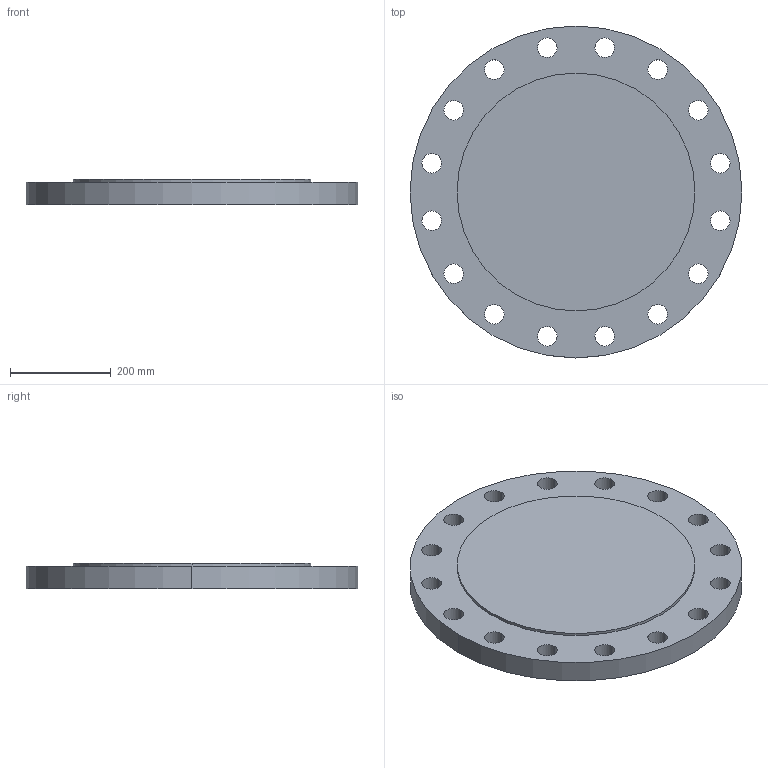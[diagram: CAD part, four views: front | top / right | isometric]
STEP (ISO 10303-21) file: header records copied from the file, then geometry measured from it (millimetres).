
FILE_DESCRIPTION (( 'STEP AP214' ), '1' );
FILE_NAME ('PN40 DN400 Type 05 - Type E Face.STEP', '2019-01-05T23:21:09', ( '' ), ( '' ), 'SwSTEP 2.0', 'SolidWorks 2019', '' );
FILE_SCHEMA (( 'AUTOMOTIVE_DESIGN' ));
Length unit declared in the file: millimetre
Products named in the file (1): PN40 DN400 Type 05 - Type E Face
Bounding box: 660 x 660 x 50 mm (x, y, z)
Volume: 15340206.5 mm3; surface area: 833689.2 mm2
Topology: 1 solids, 1 shells, 39 faces, 108 edges, 72 vertices
Faces by surface type: cylinder 36, plane 3
Entity records: 1392 total; most frequent: DIRECTION 260, CARTESIAN_POINT 220, ORIENTED_EDGE 216, AXIS2_PLACEMENT_3D 112, EDGE_CURVE 108, CIRCLE 72, EDGE_LOOP 72, VERTEX_POINT 72
